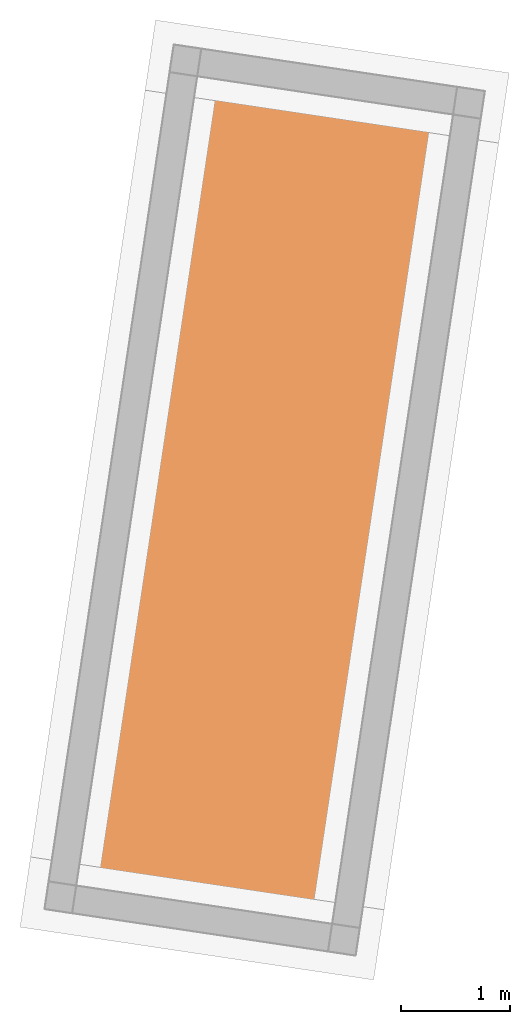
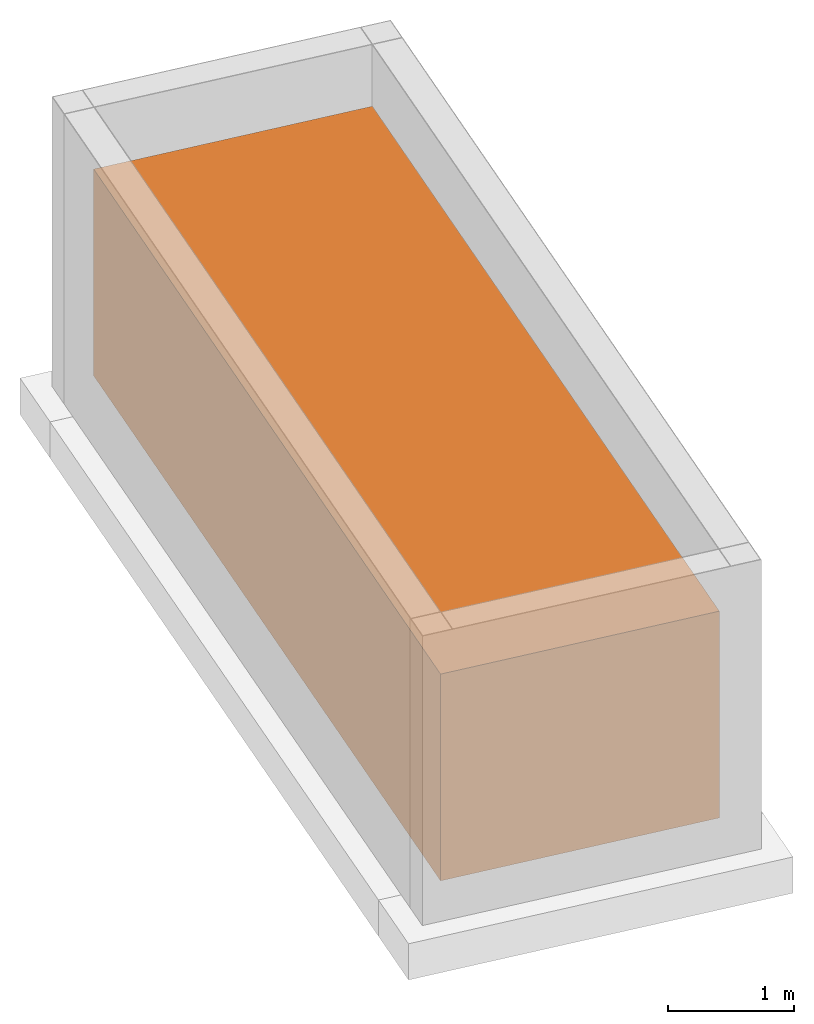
# One storey, part 3 of 3: 1 proxy.
"""IFC4 building model written with IfcOpenShell, lengths in metres."""

import ifcopenshell
import ifcopenshell.guid

model = None  # the IFC model being written
_history = None  # IfcOwnerHistory: only IFC2X3 demands one
_inside = {}  # id of a spatial element -> (the spatial element, [elements in it])
_under = {}  # id of a project, library or spatial element -> (it, [spatial elements below it])
_declared = {}  # id of a project -> (the project, [libraries it declares])
_typed = {}  # id of a type object -> (the type object, [elements of that type])
_made_of = {}  # id of a material, layer set ... -> (it, [elements and type objects made of it])


def new_model(schema):
    """Start an empty IFC model of exactly this schema.

    Asked for "IFC4X3", IfcOpenShell would pick the latest addendum, in which some entities
    have other attributes; the version numbers below select the first issue.
    IFC2X3 requires an IfcOwnerHistory on every rooted entity: one is made here for all.
    """
    global model, _history
    if schema == "IFC4X3":
        model = ifcopenshell.file(schema_version=(4, 3, 0, 0))
    else:
        model = ifcopenshell.file(schema=schema)
    _inside.clear()
    _under.clear()
    _declared.clear()
    _typed.clear()
    _made_of.clear()
    _history = None
    if model.schema == "IFC2X3":
        org = make("IfcOrganization", Name="unknown")
        user = make(
            "IfcPersonAndOrganization",
            ThePerson=make("IfcPerson", FamilyName="unknown"),
            TheOrganization=org,
        )
        app = make(
            "IfcApplication",
            ApplicationDeveloper=org,
            Version="unknown",
            ApplicationFullName="unknown",
            ApplicationIdentifier="unknown",
        )
        _history = make(
            "IfcOwnerHistory",
            OwningUser=user,
            OwningApplication=app,
            ChangeAction="ADDED",
            CreationDate=0,
        )
    return model


def make(cls, **values):
    """One entity of the class cls with the attributes given. An attribute that is None is left unset."""
    return model.create_entity(
        cls, **{name: value for name, value in values.items() if value is not None}
    )


def rooted(cls, **values):
    """An entity with a GlobalId (a new one), such as an element, a storey or a relation."""
    return make(cls, GlobalId=ifcopenshell.guid.new(), OwnerHistory=_history, **values)


def si_unit(unit_type, name, prefix=None):
    """IfcSIUnit, for example si_unit("LENGTHUNIT", "METRE", prefix="MILLI")."""
    return make("IfcSIUnit", UnitType=unit_type, Prefix=prefix, Name=name)


def assignment(units):
    """IfcUnitAssignment: the units of a project."""
    return None if units is None else make("IfcUnitAssignment", Units=units)


def point(xyz):
    """IfcCartesianPoint."""
    return None if xyz is None else make("IfcCartesianPoint", Coordinates=xyz)


def direction(xyz):
    """IfcDirection."""
    return None if xyz is None else make("IfcDirection", DirectionRatios=xyz)


def frame(location, z_axis=None, x_axis=None):
    """IfcAxis2Placement3D, a coordinate frame: its origin and axes. An axis left out is left unset."""
    return make(
        "IfcAxis2Placement3D",
        Location=point(location),
        Axis=direction(z_axis),
        RefDirection=direction(x_axis),
    )


def origin_with_axes():
    """The frame at (0, 0, 0) with the z axis (0, 0, 1) and the x axis (1, 0, 0) written out."""
    return frame((0.0, 0.0, 0.0), z_axis=(0.0, 0.0, 1.0), x_axis=(1.0, 0.0, 0.0))


def place(relative_to, where):
    """IfcLocalPlacement: puts the frame where relative to a parent placement (None: the world)."""
    return make(
        "IfcLocalPlacement", PlacementRelTo=relative_to, RelativePlacement=where
    )


def context(
    kind, dimensions, precision=None, world=None, true_north=None, identifier=None
):
    """IfcGeometricRepresentationContext, for example the 3D "Model" context."""
    return make(
        "IfcGeometricRepresentationContext",
        ContextIdentifier=identifier,
        ContextType=kind,
        CoordinateSpaceDimension=dimensions,
        Precision=precision,
        WorldCoordinateSystem=world,
        TrueNorth=true_north,
    )


def subcontext(parent, identifier, kind, view, scale=None):
    """IfcGeometricRepresentationSubContext, for example "Body" below "Model"."""
    return make(
        "IfcGeometricRepresentationSubContext",
        ContextIdentifier=identifier,
        ContextType=kind,
        ParentContext=parent,
        TargetScale=scale,
        TargetView=view,
    )


def project(units=None, contexts=None):
    """IfcProject with its units and contexts."""
    return rooted(
        "IfcProject",
        Name="project",
        RepresentationContexts=contexts,
        UnitsInContext=assignment(units),
    )


def spatial(cls, under=None, at=None, **own):
    """A site, building, storey or space (cls), placed at a placement, below another one or the project."""
    s = rooted(cls, ObjectPlacement=at, **own)
    if under is not None:
        _under.setdefault(under.id(), (under, []))[1].append(s)
    return s


def polyline(points):
    """IfcPolyline through the points."""
    return make("IfcPolyline", Points=[point(p) for p in points])


def outline(outer, holes=None, kind="AREA"):
    """IfcArbitraryClosedProfileDef: a profile drawn as a closed curve; with holes, ...WithVoids."""
    if holes is None:
        return make("IfcArbitraryClosedProfileDef", ProfileType=kind, OuterCurve=outer)
    return make(
        "IfcArbitraryProfileDefWithVoids",
        ProfileType=kind,
        OuterCurve=outer,
        InnerCurves=holes,
    )


def extrude(swept, where, along, depth):
    """IfcExtrudedAreaSolid: the profile swept, set in the frame where, extruded along a direction by depth."""
    return make(
        "IfcExtrudedAreaSolid",
        SweptArea=swept,
        Position=where,
        ExtrudedDirection=direction(along),
        Depth=depth,
    )


def shape(context_of_items, identifier, shape_type, items):
    """IfcShapeRepresentation: the items that make up one representation, for example the "Body"."""
    return make(
        "IfcShapeRepresentation",
        ContextOfItems=context_of_items,
        RepresentationIdentifier=identifier,
        RepresentationType=shape_type,
        Items=items,
    )


def material(Name=None, Category=None):
    """IfcMaterial."""
    return make("IfcMaterial", Name=Name, Category=Category)


def made_of(thing, what):
    """Note that an element or type object is made of a material, layer set ...; save() writes the relation."""
    if what is not None:
        _made_of.setdefault(what.id(), (what, []))[1].append(thing)
    return thing


def element(
    cls,
    number,
    at=None,
    inside=None,
    cuts=None,
    type_object=None,
    material=None,
    context=None,
    identifier="Body",
    shape_type=None,
    held_by="IfcProductDefinitionShape",
    body=None,
    shapes=None,
    **own,
):
    """One element of the class cls, such as IfcWall. Its Tag is "e" and its number.

    at: its placement. inside: the storey or other place that contains it. cuts: it is an
    opening in that element (IfcRelVoidsElement). A single representation is given by context,
    identifier, shape_type and body (its items); several are given by shapes. held_by: the class
    of the entity that holds the representations. save() writes the other relations.
    """
    e = rooted(cls, Tag="e%d" % number, ObjectPlacement=at, **own)
    if body is not None:
        shapes = [shape(context, identifier, shape_type, body)]
    if shapes is not None:
        e.Representation = make(held_by, Representations=shapes)
    if inside is not None:
        _inside.setdefault(inside.id(), (inside, []))[1].append(e)
    if cuts is not None:
        rooted(
            "IfcRelVoidsElement", RelatingBuildingElement=cuts, RelatedOpeningElement=e
        )
    if type_object is not None:
        _typed.setdefault(type_object.id(), (type_object, []))[1].append(e)
    return made_of(e, material)


def aggregate(whole, parts):
    """IfcRelAggregates: a whole, such as a stair, and the parts it consists of."""
    return rooted("IfcRelAggregates", RelatingObject=whole, RelatedObjects=parts)


def save(model, path):
    """Write the relations noted so far, then the file.

    IfcRelAggregates (storeys below a building ...), IfcRelContainedInSpatialStructure (elements
    in a storey), IfcRelDefinesByType, IfcRelAssociatesMaterial and IfcRelDeclares: one each for
    every whole, place, type object, material and project.
    """
    for whole, parts in _under.values():
        aggregate(whole, parts)
    for where, things in _inside.values():
        rooted(
            "IfcRelContainedInSpatialStructure",
            RelatedElements=things,
            RelatingStructure=where,
        )
    for kind, things in _typed.values():
        rooted("IfcRelDefinesByType", RelatedObjects=things, RelatingType=kind)
    for what, things in _made_of.values():
        rooted("IfcRelAssociatesMaterial", RelatedObjects=things, RelatingMaterial=what)
    for by, libraries in _declared.values():
        rooted("IfcRelDeclares", RelatingContext=by, RelatedDefinitions=libraries)
    model.write(path)


model = new_model("IFC4")

# Units and contexts
model_context = context("Model", 3, precision=1e-05, world=origin_with_axes(), true_north=direction((0.0, 1.0)))
body_context = subcontext(model_context, "Body", "Model", "MODEL_VIEW")
ifc_project = project(units=[si_unit("VOLUMEUNIT", "CUBIC_METRE"), si_unit("LENGTHUNIT", "METRE"), si_unit("AREAUNIT", "SQUARE_METRE")], contexts=[model_context])

# Site, building, storey
site_placement = place(None, origin_with_axes())
site = spatial("IfcSite", under=ifc_project, at=site_placement, Name="Lares · Rua das Mercês · artigo 4771")
building_placement = place(site_placement, frame((15.0, 9.7, 14.65), z_axis=(0.0, 0.0, 1.0), x_axis=(0.989015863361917, -0.147809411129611, 0.0)))
building = spatial("IfcBuilding", under=site, at=building_placement, Name="Casa Sobreposta")
storey_placement = place(building_placement, frame((0.0, 0.0, -2.6), z_axis=(0.0, 0.0, 1.0), x_axis=(1.0, 0.0, 0.0)))
storey = spatial("IfcBuildingStorey", under=building, at=storey_placement, Name="-01 · Cisterna sob o terraço", Elevation=12.05)

# Proxy
ifc_material = material(Name="Água pluvial · nível ilustrativo", Category="water")
proxy_placement = place(storey_placement, origin_with_axes())
element("IfcBuildingElementProxy", 1, at=proxy_placement, inside=storey, material=ifc_material, Name="Cisterna · água a 2,00 m, hipótese", ObjectType="Cisterna · água a 2,00 m, hipótese", PredefinedType="USERDEFINED", context=body_context, shape_type="SweptSolid", body=[
    extrude(outline(polyline([(-3.5, -1.3), (-5.875, -1.3), (-5.875, 6.2), (-3.5, 6.2), (-3.5, -1.3)])), origin_with_axes(), (0.0, 0.0, 1.0), 2.0),
])

save(model, "model.ifc")
